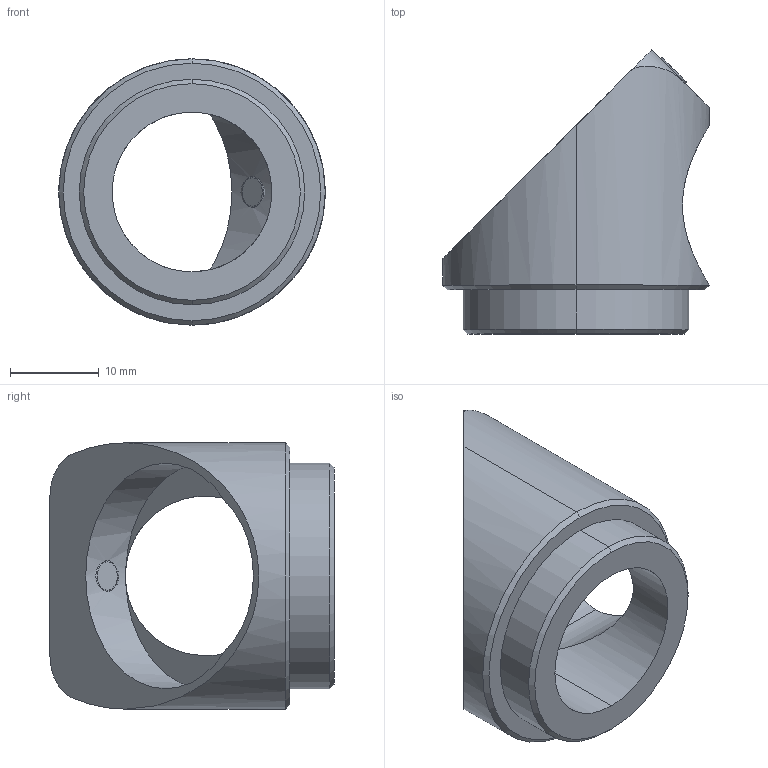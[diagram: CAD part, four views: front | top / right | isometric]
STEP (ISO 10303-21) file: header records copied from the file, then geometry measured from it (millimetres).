
FILE_DESCRIPTION (( 'STEP AP203' ), '1' );
FILE_NAME ('M-MAH45-1.STEP', '2020-06-24T07:21:23', ( '' ), ( '' ), 'SwSTEP 2.0', 'SolidWorks 2019', '' );
FILE_SCHEMA (( 'CONFIG_CONTROL_DESIGN' ));
Length unit declared in the file: millimetre
Products named in the file (3): MAH45-1-V1.0; #8-32鐵氟龍止付-L6; M-MAH45-1
Assembly tree (2 placements, depth 2):
  M-MAH45-1
    MAH45-1-V1.0
    #8-32鐵氟龍止付-L6
Bounding box: 30 x 32 x 30 mm (x, y, z)
Volume: 6287.4 mm3; surface area: 4275.3 mm2
Topology: 2 solids, 2 shells, 46 faces, 107 edges, 65 vertices
Faces by surface type: cylinder 21, plane 15, cone 6, torus 4
Entity records: 1792 total; most frequent: CARTESIAN_POINT 435, DIRECTION 238, ORIENTED_EDGE 214, EDGE_CURVE 107, AXIS2_PLACEMENT_3D 96, VERTEX_POINT 65, EDGE_LOOP 52, VECTOR 46
